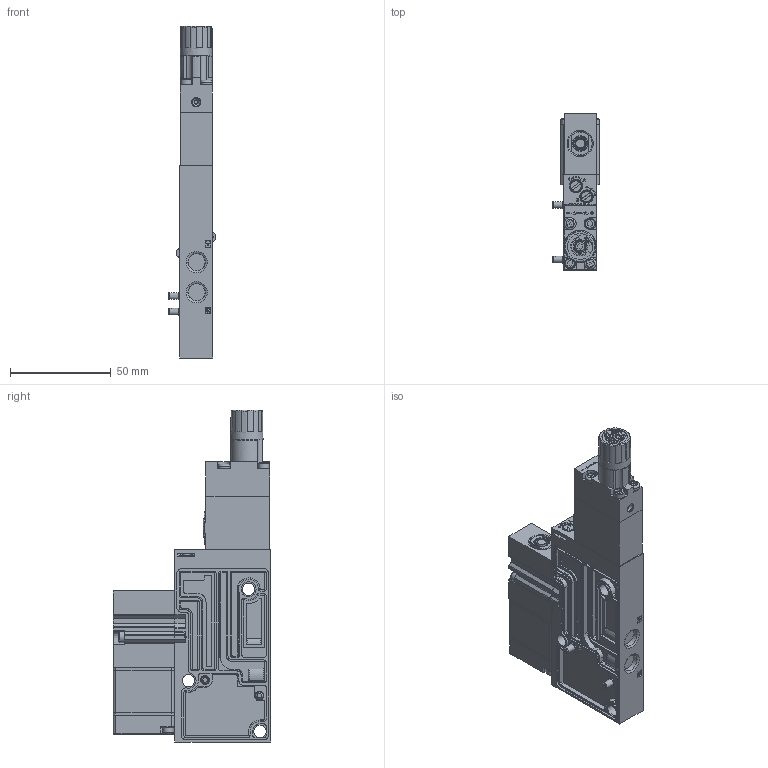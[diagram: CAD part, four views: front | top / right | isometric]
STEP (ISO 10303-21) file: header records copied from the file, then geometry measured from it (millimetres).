
FILE_DESCRIPTION (( 'STEP AP214' ), '1' );
FILE_NAME ('46 SGL REG.STEP', '2019-09-20T18:28:22', ( 'user' ), ( '' ), 'SwSTEP 2.0', 'SolidWorks 2014', '' );
FILE_SCHEMA (( 'AUTOMOTIVE_DESIGN' ));
Length unit declared in the file: millimetre
Products named in the file (4): 46-OPERATOR-JXXP-1FA; 46-BODY-L00; 46-BASE-0MA-1J; 46 SGL REG
Assembly tree (3 placements, depth 2):
  46 SGL REG
    46-BASE-0MA-1J
    46-BODY-L00
    46-OPERATOR-JXXP-1FA
Bounding box: 23.4 x 78 x 164.75 mm (x, y, z)
Volume: 109602.6 mm3; surface area: 49133.5 mm2
Topology: 22 solids, 23 shells, 2085 faces, 5360 edges, 3464 vertices
Faces by surface type: plane 1079, cylinder 678, bspline 148, cone 105, torus 65, sphere 10
Full cylindrical faces by diameter (mm): 0.3 x1, 1.5 x3, 2 x3, 2.5 x4, 2.75 x4, 2.82 x2, 3 x3, 3.1 x2, 3.12 x1, 3.15 x4, 3.25 x4, 3.5 x3, 3.6 x1, 3.96 x1, 4.1 x1, 4.15 x2, 4.5 x2, 5.3 x2, 5.5 x7, 5.53 x1, 5.75 x6, 6 x4, 6.097 x3, 6.5 x1, 6.8 x1, 7.3 x2, 7.4 x1, 7.45 x1, 7.8 x1, 9.464 x1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
Entity records: 90226 total; most frequent: CARTESIAN_POINT 18030, ORIENTED_EDGE 10254, DIRECTION 9762, EDGE_CURVE 5127, VERTEX_POINT 3422, AXIS2_PLACEMENT_3D 3321, LINE 3120, VECTOR 3120
